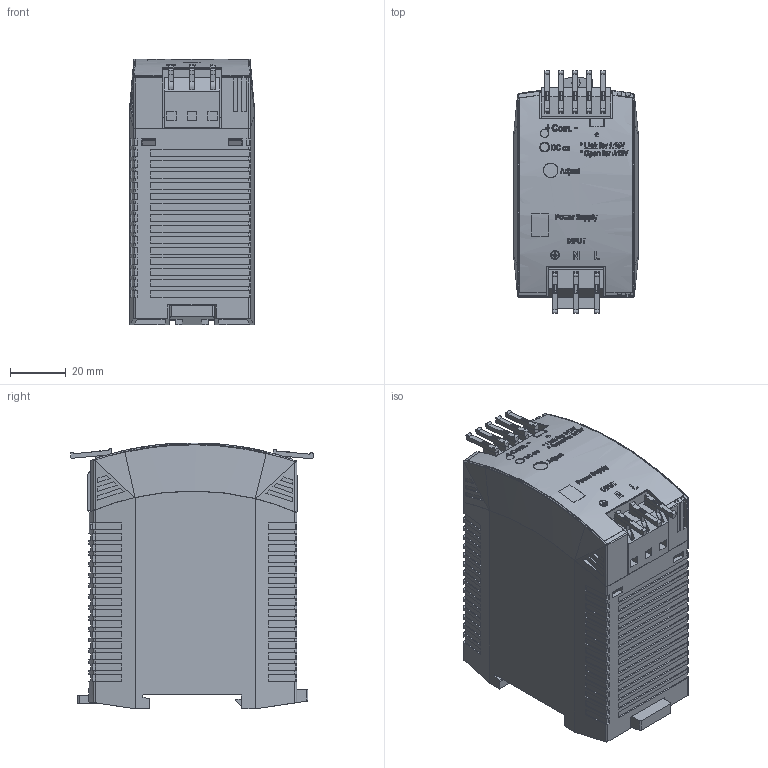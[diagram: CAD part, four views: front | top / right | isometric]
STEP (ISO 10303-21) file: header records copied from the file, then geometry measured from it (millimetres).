
FILE_DESCRIPTION((''),'2;1');
FILE_NAME('C:\Users\rahns\Desktop\Sylvia Info´s\Dateien für Vertrieb\ML30\102\md3_ml30_102.stp','2012-06-15T10:16:51',('rahns'),(''),'Autodesk Inventor 2009','Autodesk Inventor 2009','');
FILE_SCHEMA(('AUTOMOTIVE_DESIGN { 1 0 10303 214 1 1 1 1 }'));
Length unit declared in the file: millimetre
Products named in the file (7): 322; HOUSING BODY 322; HOUSING COVER 322; SLIDER 322; TERMINAL 3P; TERMINAL 5P; FRONTFOIL 322
Assembly tree (6 placements, depth 2):
  322
    HOUSING BODY 322
    HOUSING COVER 322
    SLIDER 322
    TERMINAL 3P
    TERMINAL 5P
    FRONTFOIL 322
Bounding box: 45 x 87.49 x 95.74 mm (x, y, z)
Volume: 291920.8 mm3; surface area: 53008.5 mm2
Topology: 11 solids, 11 shells, 2029 faces, 5544 edges, 3685 vertices
Faces by surface type: plane 1321, bspline 410, cylinder 291, cone 7
Full cylindrical faces by diameter (mm): 1.2 x8, 3 x2, 5.2 x1
Entity records: 187686 total; most frequent: CARTESIAN_POINT 138413, ORIENTED_EDGE 11066, DIRECTION 8292, EDGE_CURVE 5533, VERTEX_POINT 3685, VECTOR 3604, LINE 3604, AXIS2_PLACEMENT_3D 2344
